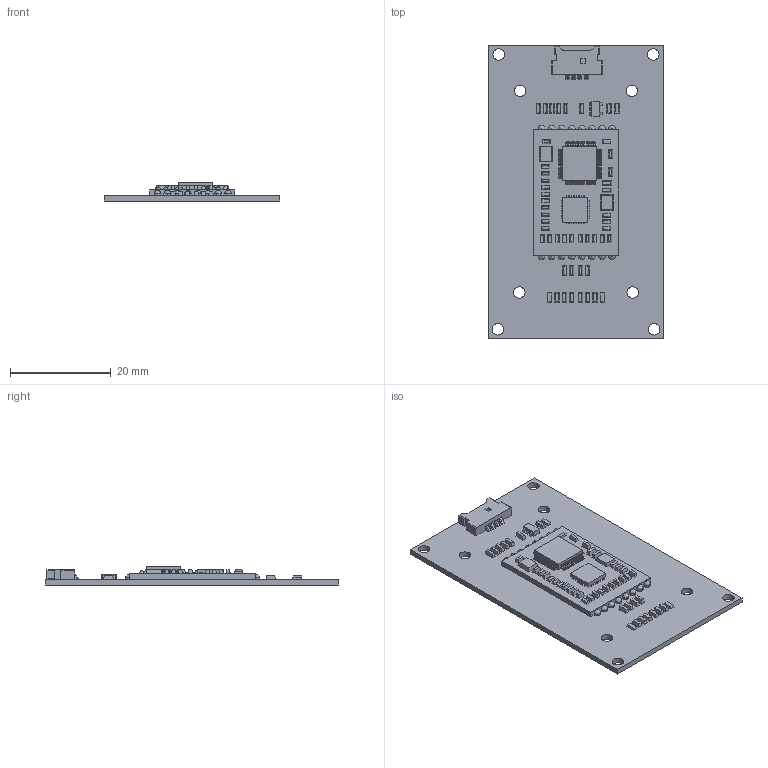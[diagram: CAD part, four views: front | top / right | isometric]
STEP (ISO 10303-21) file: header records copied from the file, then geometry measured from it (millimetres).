
FILE_DESCRIPTION(/* description */ (''),/* implementation_level */ '2;1');
FILE_NAME(/* name */ 'OEM-R835_10-ausg.stp',/* time_stamp */ '2020-03-17T13:05:39+01:00',/* author */ (''),/* organization */ (''),/* preprocessor_version */ 'ST-DEVELOPER v16.7',/* originating_system */ 'SIEMENS PLM Software NX 12.0',/* authorisation */ '');
FILE_SCHEMA (('AUTOMOTIVE_DESIGN { 1 0 10303 214 3 1 1 1 }'));
Length unit declared in the file: millimetre
Products named in the file (1): OEM-R835_10-ausg
Bounding box: 34.88 x 58.32 x 3.6 mm (x, y, z)
Volume: 2884 mm3; surface area: 4751.7 mm2
Topology: 13 solids, 13 shells, 1217 faces, 3149 edges, 2014 vertices
Faces by surface type: plane 680, cylinder 393, bspline 144
Full cylindrical faces by diameter (mm): 2.3 x8
Entity records: 38997 total; most frequent: CARTESIAN_POINT 9157, ORIENTED_EDGE 6218, DIRECTION 6183, EDGE_CURVE 3109, LINE 2151, VECTOR 2151, AXIS2_PLACEMENT_3D 2016, VERTEX_POINT 1998
